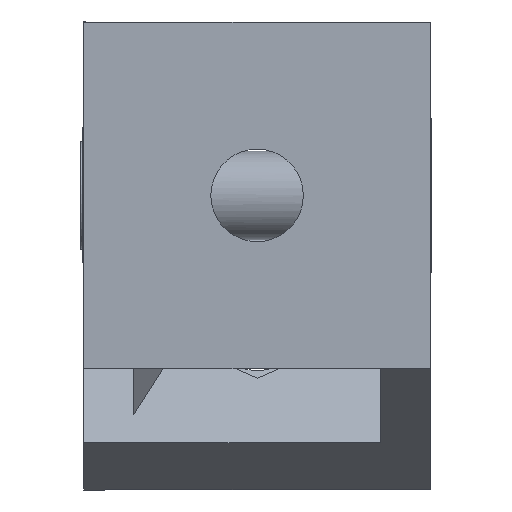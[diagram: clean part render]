
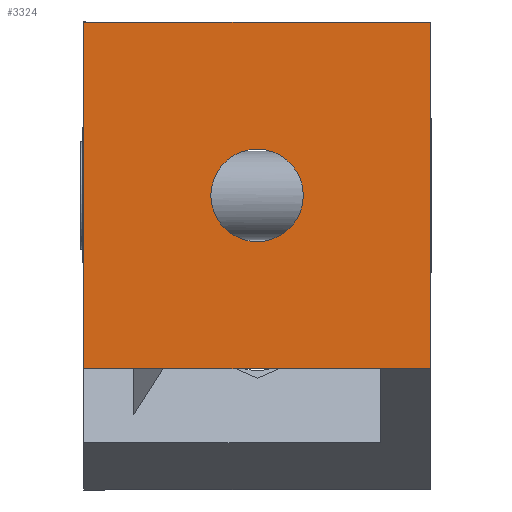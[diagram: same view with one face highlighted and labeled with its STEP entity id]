
A CAD part, front view. The second image highlights one B-rep face of the part: STEP entity #3324.
In plain terms, the highlighted planar face has unit normal (0, -1, 0) as drawn and (0, 0, -1) by its records, which use the part's own axes.
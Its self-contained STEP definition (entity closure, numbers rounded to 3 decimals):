
#29 = CARTESIAN_POINT ( 'NONE',  ( -26.332, 23.882, 0. ) ) ;
#46 = LINE ( 'NONE', #1165, #2137 ) ;
#116 = VERTEX_POINT ( 'NONE', #1447 ) ;
#161 = DIRECTION ( 'NONE',  ( 0., 0., 1. ) ) ;
#302 = DIRECTION ( 'NONE',  ( 1., 0., 0. ) ) ;
#354 = CARTESIAN_POINT ( 'NONE',  ( -26.332, 23.882, 0. ) ) ;
#378 = VECTOR ( 'NONE', #2511, 1000. ) ;
#390 = DIRECTION ( 'NONE',  ( 0., -1., 0. ) ) ;
#461 = FACE_BOUND ( 'NONE', #2782, .T. ) ;
#467 = VERTEX_POINT ( 'NONE', #2442 ) ;
#719 = CARTESIAN_POINT ( 'NONE',  ( -3.832, 1.382, 0. ) ) ;
#757 = EDGE_CURVE ( 'NONE', #116, #1552, #46, .T. ) ;
#764 = CARTESIAN_POINT ( 'NONE',  ( -9.832, 1.382, 0. ) ) ;
#874 = CIRCLE ( 'NONE', #1061, 6. ) ;
#929 = CARTESIAN_POINT ( 'NONE',  ( -26.332, 23.882, 0. ) ) ;
#993 = DIRECTION ( 'NONE',  ( 1., 0., 0. ) ) ;
#1061 = AXIS2_PLACEMENT_3D ( 'NONE', #1801, #161, #2070 ) ;
#1100 = CARTESIAN_POINT ( 'NONE',  ( 18.668, 23.882, 0. ) ) ;
#1103 = LINE ( 'NONE', #29, #378 ) ;
#1165 = CARTESIAN_POINT ( 'NONE',  ( -26.332, -21.118, 0. ) ) ;
#1360 = FACE_OUTER_BOUND ( 'NONE', #2269, .T. ) ;
#1389 = CARTESIAN_POINT ( 'NONE',  ( 18.668, 23.882, 0. ) ) ;
#1434 = CARTESIAN_POINT ( 'NONE',  ( 18.668, -21.118, 0. ) ) ;
#1447 = CARTESIAN_POINT ( 'NONE',  ( -26.332, -21.118, 0. ) ) ;
#1552 = VERTEX_POINT ( 'NONE', #1434 ) ;
#1636 = EDGE_CURVE ( 'NONE', #467, #1705, #874, .T. ) ;
#1665 = CARTESIAN_POINT ( 'NONE',  ( 0., 0., 0. ) ) ;
#1705 = VERTEX_POINT ( 'NONE', #764 ) ;
#1738 = ORIENTED_EDGE ( 'NONE', *, *, #2357, .F. ) ;
#1801 = CARTESIAN_POINT ( 'NONE',  ( -3.832, 1.382, 0. ) ) ;
#1942 = DIRECTION ( 'NONE',  ( 0., 1., 0. ) ) ;
#1950 = DIRECTION ( 'NONE',  ( 0., 0., 1. ) ) ;
#1964 = VERTEX_POINT ( 'NONE', #1389 ) ;
#1966 = EDGE_CURVE ( 'NONE', #1552, #1964, #3469, .T. ) ;
#2001 = VECTOR ( 'NONE', #1942, 1000. ) ;
#2025 = AXIS2_PLACEMENT_3D ( 'NONE', #719, #2628, #993 ) ;
#2041 = CIRCLE ( 'NONE', #2025, 6. ) ;
#2070 = DIRECTION ( 'NONE',  ( 1., 0., 0. ) ) ;
#2137 = VECTOR ( 'NONE', #3074, 1000. ) ;
#2269 = EDGE_LOOP ( 'NONE', ( #1738, #2934, #3035, #2605 ) ) ;
#2357 = EDGE_CURVE ( 'NONE', #2687, #116, #3508, .T. ) ;
#2400 = EDGE_CURVE ( 'NONE', #1705, #467, #2041, .T. ) ;
#2442 = CARTESIAN_POINT ( 'NONE',  ( 2.168, 1.382, 0. ) ) ;
#2511 = DIRECTION ( 'NONE',  ( -1., 0., 0. ) ) ;
#2605 = ORIENTED_EDGE ( 'NONE', *, *, #757, .F. ) ;
#2628 = DIRECTION ( 'NONE',  ( 0., 0., 1. ) ) ;
#2687 = VERTEX_POINT ( 'NONE', #354 ) ;
#2778 = VECTOR ( 'NONE', #390, 1000. ) ;
#2782 = EDGE_LOOP ( 'NONE', ( #2896, #2985 ) ) ;
#2896 = ORIENTED_EDGE ( 'NONE', *, *, #1636, .T. ) ;
#2934 = ORIENTED_EDGE ( 'NONE', *, *, #3368, .F. ) ;
#2985 = ORIENTED_EDGE ( 'NONE', *, *, #2400, .T. ) ;
#3035 = ORIENTED_EDGE ( 'NONE', *, *, #1966, .F. ) ;
#3074 = DIRECTION ( 'NONE',  ( 1., 0., 0. ) ) ;
#3293 = AXIS2_PLACEMENT_3D ( 'NONE', #1665, #1950, #302 ) ;
#3314 = PLANE ( 'NONE',  #3293 ) ;
#3324 = ADVANCED_FACE ( 'NONE', ( #461, #1360 ), #3314, .F. ) ;
#3368 = EDGE_CURVE ( 'NONE', #1964, #2687, #1103, .T. ) ;
#3469 = LINE ( 'NONE', #1100, #2001 ) ;
#3508 = LINE ( 'NONE', #929, #2778 ) ;
